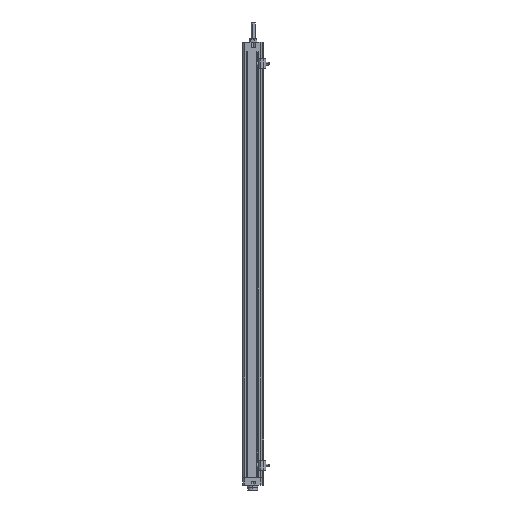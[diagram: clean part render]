
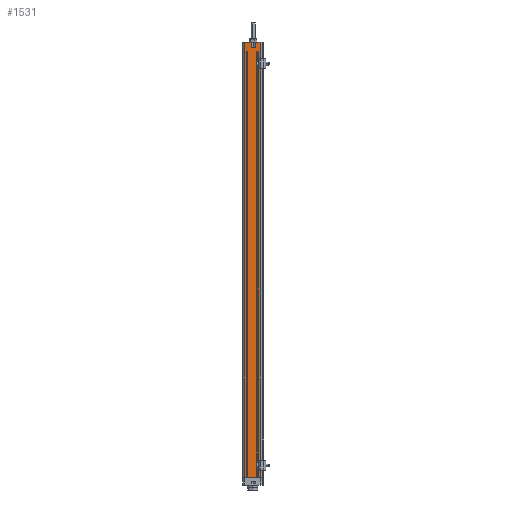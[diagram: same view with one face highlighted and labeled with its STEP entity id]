
A CAD part, left-side view. The second image highlights one B-rep face of the part: STEP entity #1531.
In plain terms, the highlighted planar face has unit normal (-1, 0, 0).
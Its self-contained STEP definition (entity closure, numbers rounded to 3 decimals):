
#1531=ADVANCED_FACE('',(#3333),#3334,.T.);
#3333=FACE_OUTER_BOUND('',#5496,.T.);
#3334=PLANE('',#5497);
#5496=EDGE_LOOP('',(#9912,#9913,#9914,#9915,#9916,#9917,#9918,#9919,#9920,#9921,#9922,#9923,#9924,#9925,#9926,#9927));
#5497=AXIS2_PLACEMENT_3D('',#9928,#9929,#9930);
#9912=ORIENTED_EDGE('',*,*,#13821,.F.);
#9913=ORIENTED_EDGE('',*,*,#13824,.T.);
#9914=ORIENTED_EDGE('',*,*,#13825,.T.);
#9915=ORIENTED_EDGE('',*,*,#13826,.T.);
#9916=ORIENTED_EDGE('',*,*,#13827,.F.);
#9917=ORIENTED_EDGE('',*,*,#13828,.T.);
#9918=ORIENTED_EDGE('',*,*,#13829,.T.);
#9919=ORIENTED_EDGE('',*,*,#13830,.T.);
#9920=ORIENTED_EDGE('',*,*,#13831,.F.);
#9921=ORIENTED_EDGE('',*,*,#13832,.T.);
#9922=ORIENTED_EDGE('',*,*,#13833,.T.);
#9923=ORIENTED_EDGE('',*,*,#13834,.F.);
#9924=ORIENTED_EDGE('',*,*,#13835,.F.);
#9925=ORIENTED_EDGE('',*,*,#13836,.F.);
#9926=ORIENTED_EDGE('',*,*,#13837,.T.);
#9927=ORIENTED_EDGE('',*,*,#13838,.F.);
#9928=CARTESIAN_POINT('',(0.0,27.0,-136.5));
#9929=DIRECTION('',(-1.0,0.0,0.0));
#9930=DIRECTION('',(0.0,0.0,1.0));
#13821=EDGE_CURVE('',#16877,#16879,#16880,.T.);
#13824=EDGE_CURVE('',#16877,#16883,#16884,.T.);
#13825=EDGE_CURVE('',#16883,#16885,#16886,.T.);
#13826=EDGE_CURVE('',#16885,#16887,#16888,.T.);
#13827=EDGE_CURVE('',#16889,#16887,#16890,.T.);
#13828=EDGE_CURVE('',#16889,#16891,#16892,.T.);
#13829=EDGE_CURVE('',#16891,#16893,#16894,.T.);
#13830=EDGE_CURVE('',#16893,#16895,#16896,.T.);
#13831=EDGE_CURVE('',#16897,#16895,#16898,.T.);
#13832=EDGE_CURVE('',#16897,#16899,#16900,.T.);
#13833=EDGE_CURVE('',#16899,#16901,#16902,.T.);
#13834=EDGE_CURVE('',#16903,#16901,#16904,.T.);
#13835=EDGE_CURVE('',#16905,#16903,#16906,.T.);
#13836=EDGE_CURVE('',#16907,#16905,#16908,.T.);
#13837=EDGE_CURVE('',#16907,#16909,#16910,.T.);
#13838=EDGE_CURVE('',#16879,#16909,#16911,.T.);
#16877=VERTEX_POINT('',#21165);
#16879=VERTEX_POINT('',#21167);
#16880=LINE('',#21168,#21169);
#16883=VERTEX_POINT('',#21172);
#16884=LINE('',#21173,#21174);
#16885=VERTEX_POINT('',#21175);
#16886=LINE('',#21176,#21177);
#16887=VERTEX_POINT('',#21178);
#16888=LINE('',#21179,#21180);
#16889=VERTEX_POINT('',#21181);
#16890=LINE('',#21182,#21183);
#16891=VERTEX_POINT('',#21184);
#16892=LINE('',#21185,#21186);
#16893=VERTEX_POINT('',#21187);
#16894=LINE('',#21188,#21189);
#16895=VERTEX_POINT('',#21190);
#16896=LINE('',#21191,#21192);
#16897=VERTEX_POINT('',#21193);
#16898=LINE('',#21194,#21195);
#16899=VERTEX_POINT('',#21196);
#16900=LINE('',#21197,#21198);
#16901=VERTEX_POINT('',#21199);
#16902=LINE('',#21200,#21201);
#16903=VERTEX_POINT('',#21202);
#16904=LINE('',#21203,#21204);
#16905=VERTEX_POINT('',#21205);
#16906=LINE('',#21206,#21207);
#16907=VERTEX_POINT('',#21208);
#16908=LINE('',#21209,#21210);
#16909=VERTEX_POINT('',#21211);
#16910=LINE('',#21212,#21213);
#16911=LINE('',#21214,#21215);
#21165=CARTESIAN_POINT('',(0.0,29.5,-136.5));
#21167=CARTESIAN_POINT('',(0.,29.5,525.3));
#21168=CARTESIAN_POINT('',(0.0,29.5,-136.5));
#21169=VECTOR('',#24859,661.8);
#21172=CARTESIAN_POINT('',(0.0,27.0,-136.5));
#21173=CARTESIAN_POINT('',(0.0,29.5,-136.5));
#21174=VECTOR('',#24863,2.5);
#21175=CARTESIAN_POINT('',(0.0,27.0,511.0));
#21176=CARTESIAN_POINT('',(0.0,27.0,-136.5));
#21177=VECTOR('',#24864,647.5);
#21178=CARTESIAN_POINT('',(0.0,24.4,511.0));
#21179=CARTESIAN_POINT('',(0.,27.0,511.0));
#21180=VECTOR('',#24865,2.6);
#21181=CARTESIAN_POINT('',(0.0,24.4,-136.5));
#21182=CARTESIAN_POINT('',(0.0,24.4,-136.5));
#21183=VECTOR('',#24866,647.5);
#21184=CARTESIAN_POINT('',(0.0,11.6,-136.5));
#21185=CARTESIAN_POINT('',(0.0,24.4,-136.5));
#21186=VECTOR('',#24867,12.8);
#21187=CARTESIAN_POINT('',(0.0,11.6,511.0));
#21188=CARTESIAN_POINT('',(0.0,11.6,-136.5));
#21189=VECTOR('',#24868,647.5);
#21190=CARTESIAN_POINT('',(0.0,9.,511.0));
#21191=CARTESIAN_POINT('',(0.,11.6,511.0));
#21192=VECTOR('',#24869,2.6);
#21193=CARTESIAN_POINT('',(0.0,9.0,-136.5));
#21194=CARTESIAN_POINT('',(0.0,9.0,-136.5));
#21195=VECTOR('',#24870,647.5);
#21196=CARTESIAN_POINT('',(0.0,6.0,-136.5));
#21197=CARTESIAN_POINT('',(0.0,9.0,-136.5));
#21198=VECTOR('',#24871,3.0);
#21199=CARTESIAN_POINT('',(0.,6.,525.3));
#21200=CARTESIAN_POINT('',(0.0,6.0,-136.5));
#21201=VECTOR('',#24872,661.8);
#21202=CARTESIAN_POINT('',(0.,13.25,525.3));
#21203=CARTESIAN_POINT('',(0.,13.25,525.3));
#21204=VECTOR('',#24873,7.25);
#21205=CARTESIAN_POINT('',(0.,13.25,517.0));
#21206=CARTESIAN_POINT('',(0.,13.25,517.0));
#21207=VECTOR('',#24874,8.3);
#21208=CARTESIAN_POINT('',(0.,19.75,517.0));
#21209=CARTESIAN_POINT('',(0.,19.75,517.0));
#21210=VECTOR('',#24875,6.5);
#21211=CARTESIAN_POINT('',(0.,19.75,525.3));
#21212=CARTESIAN_POINT('',(0.,19.75,517.0));
#21213=VECTOR('',#24876,8.3);
#21214=CARTESIAN_POINT('',(0.,29.5,525.3));
#21215=VECTOR('',#24877,9.75);
#24859=DIRECTION('',(0.0,0.0,1.0));
#24863=DIRECTION('',(0.0,-1.0,0.0));
#24864=DIRECTION('',(0.0,0.0,1.0));
#24865=DIRECTION('',(0.0,-1.0,0.0));
#24866=DIRECTION('',(0.0,0.0,1.0));
#24867=DIRECTION('',(0.0,-1.0,0.0));
#24868=DIRECTION('',(0.0,0.0,1.0));
#24869=DIRECTION('',(0.0,-1.0,0.0));
#24870=DIRECTION('',(0.0,0.0,1.0));
#24871=DIRECTION('',(0.0,-1.0,0.0));
#24872=DIRECTION('',(0.0,0.0,1.0));
#24873=DIRECTION('',(0.0,-1.0,0.0));
#24874=DIRECTION('',(0.0,0.0,1.0));
#24875=DIRECTION('',(0.0,-1.0,0.0));
#24876=DIRECTION('',(0.0,0.0,1.0));
#24877=DIRECTION('',(0.0,-1.0,0.0));
